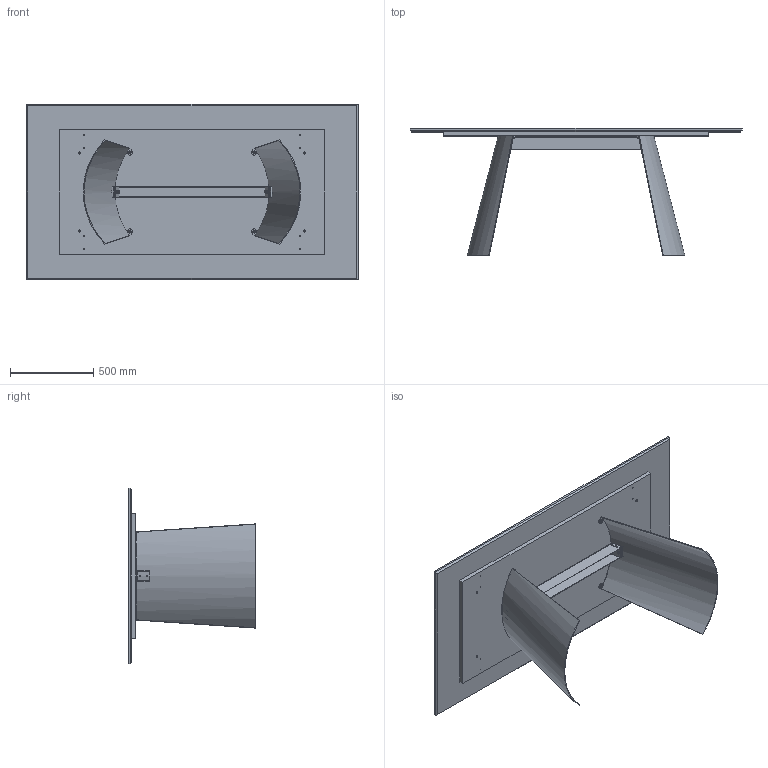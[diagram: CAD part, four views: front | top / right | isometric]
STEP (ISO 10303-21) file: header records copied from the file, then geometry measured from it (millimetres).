
FILE_DESCRIPTION (( 'STEP AP203' ), '1' );
FILE_NAME ('DN21M.STEP', '2024-08-07T14:56:20', ( '' ), ( '' ), 'SwSTEP 2.0', 'SolidWorks 2022', '' );
FILE_SCHEMA (( 'CONFIG_CONTROL_DESIGN' ));
Length unit declared in the file: millimetre
Products named in the file (14): DN21M; GRANO M8X35_barra; TRUXXXXXX-00-NOBILITATO GR CON SUPP TRUCIOLARE SP. 25_TRU00004_1600x720; DNB300000_01-02-GAMBA DORIAN; feltro Ø12x3; DNBX00000-01-DORIAN TRAVERSO LXXXX PER TAVOLO LX00_L.970; DNB300000_02-02-RISCONTRO STANGONE CENTRALE; DNB400000-02-ASSIEME STRUTTURA COMPLETA_L.960; DNB300000_03-02-PIASTRINA; nut_M8_M8; M2XMXX-00-Piani rettangolari in marmo_2000x1060; SDNB300000-02-GAMBA X TRASP; rondella M8_8X16; M2X-00-Piani rettangolari marmo_2000*1060
Assembly tree (31 placements, depth 4):
  DN21M
    M2XMXX-00-Piani rettangolari in marmo_2000x1060
      M2X-00-Piani rettangolari marmo_2000*1060
      TRUXXXXXX-00-NOBILITATO GR CON SUPP TRUCIOLARE SP. 25_TRU00004_1600x720
    DNB400000-02-ASSIEME STRUTTURA COMPLETA_L.960
      SDNB300000-02-GAMBA X TRASP  x2
        DNB300000_01-02-GAMBA DORIAN
        DNB300000_02-02-RISCONTRO STANGONE CENTRALE
        DNB300000_03-02-PIASTRINA
      DNBX00000-01-DORIAN TRAVERSO LXXXX PER TAVOLO LX00_L.970
    nut_M8_M8  x8
    GRANO M8X35_barra  x4
    rondella M8_8X16  x4
    feltro Ø12x3  x4
Bounding box: 2000 x 765 x 1060 mm (x, y, z)
Volume: 77567362.4 mm3; surface area: 9232022.5 mm2
Topology: 33 solids, 33 shells, 544 faces, 1308 edges, 811 vertices
Faces by surface type: plane 210, cylinder 158, cone 126, torus 32, bspline 18
Entity records: 10911 total; most frequent: CARTESIAN_POINT 2169, DIRECTION 1449, ORIENTED_EDGE 1360, EDGE_CURVE 680, AXIS2_PLACEMENT_3D 523, VERTEX_POINT 439, LINE 403, VECTOR 403
